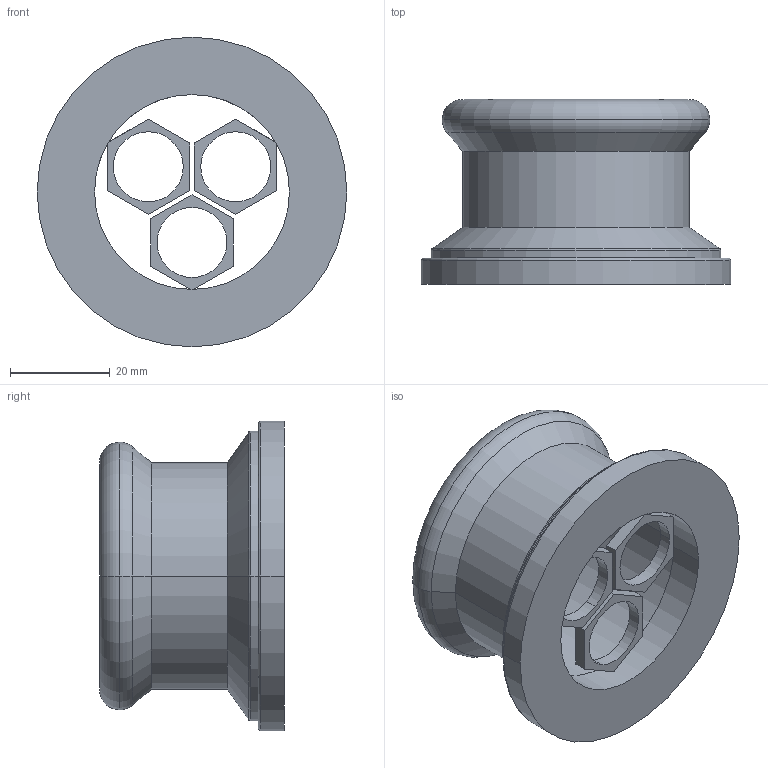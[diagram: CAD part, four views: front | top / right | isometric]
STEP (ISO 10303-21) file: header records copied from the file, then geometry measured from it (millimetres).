
FILE_DESCRIPTION(('OneSpaceDesigner STEP Export'),'2;1');
FILE_NAME('R2736 42x2.1-4.stp','2010-06-10T14:08:56',(''),(''),'OneSpace Designer STEP processor for AP214 (Solid Model)','OneSpace Modeling 15.00A 14-Mar-2007 (C) CoCreate Software GmbH','');
FILE_SCHEMA(('AUTOMOTIVE_DESIGN { 1 0 10303 214 1 1 1 1 }'));
Length unit declared in the file: millimetre
Products named in the file (2): R2736_42x2.1-4
Assembly tree (1 placements, depth 2):
  R2736_42x2.1-4
    R2736_42x2.1-4
Bounding box: 62 x 37 x 62 mm (x, y, z)
Volume: 25436.5 mm3; surface area: 15793.8 mm2
Topology: 1 solids, 1 shells, 65 faces, 158 edges, 101 vertices
Faces by surface type: plane 32, cylinder 21, torus 8, cone 4
Entity records: 1711 total; most frequent: ORIENTED_EDGE 316, CARTESIAN_POINT 273, DIRECTION 253, EDGE_CURVE 158, VERTEX_POINT 101, VECTOR 91, LINE 91, AXIS2_PLACEMENT_3D 81
